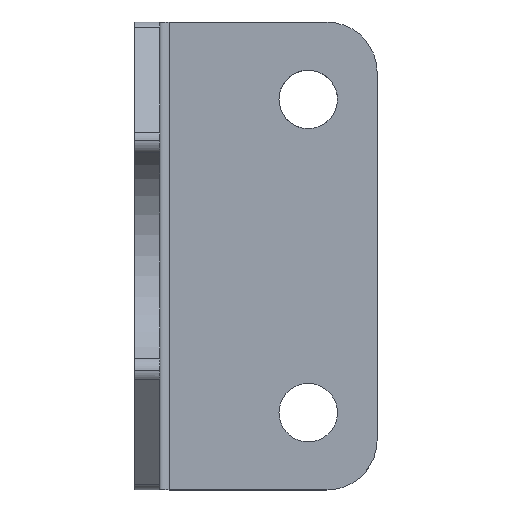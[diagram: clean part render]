
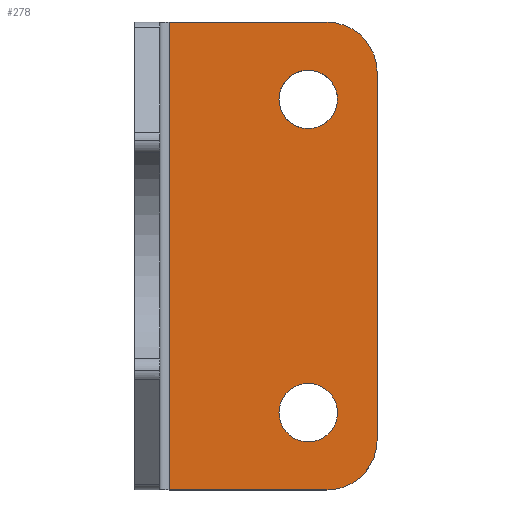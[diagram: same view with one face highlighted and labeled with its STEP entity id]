
A CAD part, top view. The second image highlights one B-rep face of the part: STEP entity #278.
In plain terms, the highlighted planar face has unit normal (0, 0, 1).
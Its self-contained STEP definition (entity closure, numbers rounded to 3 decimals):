
#62=CARTESIAN_POINT('Vertex',(41.5,-44.5,0.)) ;
#65=CARTESIAN_POINT('Axis2P3D Location',(41.5,-37.5,0.)) ;
#69=CARTESIAN_POINT('Vertex',(48.5,-37.5,0.)) ;
#102=CARTESIAN_POINT('Vertex',(34.5,-37.5,0.)) ;
#105=CARTESIAN_POINT('Axis2P3D Location',(41.5,-37.5,0.)) ;
#122=CARTESIAN_POINT('Axis2P3D Location',(41.5,-37.5,0.)) ;
#126=CARTESIAN_POINT('Vertex',(41.5,-30.5,0.)) ;
#153=CARTESIAN_POINT('Axis2P3D Location',(41.5,-37.5,0.)) ;
#165=CARTESIAN_POINT('Axis2P3D Location',(0.,0.,0.)) ;
#170=CARTESIAN_POINT('Line Origine',(8.25,0.,0.)) ;
#174=CARTESIAN_POINT('Vertex',(8.25,-56.,0.)) ;
#176=CARTESIAN_POINT('Vertex',(8.25,56.,0.)) ;
#179=CARTESIAN_POINT('Line Origine',(33.125,-56.,0.)) ;
#183=CARTESIAN_POINT('Vertex',(46.,-56.,0.)) ;
#187=CARTESIAN_POINT('Control Point',(46.,-56.,0.)) ;
#188=CARTESIAN_POINT('Control Point',(49.77,-56.,0.)) ;
#189=CARTESIAN_POINT('Control Point',(53.543,-54.524,0.)) ;
#190=CARTESIAN_POINT('Control Point',(56.524,-51.543,0.)) ;
#191=CARTESIAN_POINT('Control Point',(58.,-47.77,0.)) ;
#192=CARTESIAN_POINT('Control Point',(58.,-44.,0.)) ;
#193=CARTESIAN_POINT('Vertex',(58.,-44.,0.)) ;
#196=CARTESIAN_POINT('Line Origine',(58.,0.,0.)) ;
#200=CARTESIAN_POINT('Vertex',(58.,44.,0.)) ;
#204=CARTESIAN_POINT('Control Point',(58.,44.,0.)) ;
#205=CARTESIAN_POINT('Control Point',(58.,47.77,0.)) ;
#206=CARTESIAN_POINT('Control Point',(56.524,51.543,0.)) ;
#207=CARTESIAN_POINT('Control Point',(53.543,54.524,0.)) ;
#208=CARTESIAN_POINT('Control Point',(49.77,56.,0.)) ;
#209=CARTESIAN_POINT('Control Point',(46.,56.,0.)) ;
#210=CARTESIAN_POINT('Vertex',(46.,56.,0.)) ;
#213=CARTESIAN_POINT('Line Origine',(33.125,56.,0.)) ;
#233=CARTESIAN_POINT('Control Point',(41.5,30.5,0.)) ;
#234=CARTESIAN_POINT('Control Point',(43.699,30.5,0.)) ;
#235=CARTESIAN_POINT('Control Point',(45.9,31.361,0.)) ;
#236=CARTESIAN_POINT('Control Point',(47.639,33.1,0.)) ;
#237=CARTESIAN_POINT('Control Point',(48.5,35.301,0.)) ;
#238=CARTESIAN_POINT('Control Point',(48.5,37.5,0.)) ;
#239=CARTESIAN_POINT('Vertex',(41.5,30.5,0.)) ;
#241=CARTESIAN_POINT('Vertex',(48.5,37.5,0.)) ;
#245=CARTESIAN_POINT('Control Point',(34.5,37.5,0.)) ;
#246=CARTESIAN_POINT('Control Point',(34.5,35.301,0.)) ;
#247=CARTESIAN_POINT('Control Point',(35.361,33.1,0.)) ;
#248=CARTESIAN_POINT('Control Point',(37.1,31.361,0.)) ;
#249=CARTESIAN_POINT('Control Point',(39.301,30.5,0.)) ;
#250=CARTESIAN_POINT('Control Point',(41.5,30.5,0.)) ;
#251=CARTESIAN_POINT('Vertex',(34.5,37.5,0.)) ;
#255=CARTESIAN_POINT('Control Point',(41.5,44.5,0.)) ;
#256=CARTESIAN_POINT('Control Point',(39.301,44.5,0.)) ;
#257=CARTESIAN_POINT('Control Point',(37.1,43.639,0.)) ;
#258=CARTESIAN_POINT('Control Point',(35.361,41.9,0.)) ;
#259=CARTESIAN_POINT('Control Point',(34.5,39.699,0.)) ;
#260=CARTESIAN_POINT('Control Point',(34.5,37.5,0.)) ;
#261=CARTESIAN_POINT('Vertex',(41.5,44.5,0.)) ;
#265=CARTESIAN_POINT('Control Point',(48.5,37.5,0.)) ;
#266=CARTESIAN_POINT('Control Point',(48.5,39.699,0.)) ;
#267=CARTESIAN_POINT('Control Point',(47.639,41.9,0.)) ;
#268=CARTESIAN_POINT('Control Point',(45.9,43.639,0.)) ;
#269=CARTESIAN_POINT('Control Point',(43.699,44.5,0.)) ;
#270=CARTESIAN_POINT('Control Point',(41.5,44.5,0.)) ;
#66=DIRECTION('Axis2P3D Direction',(0.,0.,1.)) ;
#106=DIRECTION('Axis2P3D Direction',(0.,0.,1.)) ;
#123=DIRECTION('Axis2P3D Direction',(0.,0.,1.)) ;
#154=DIRECTION('Axis2P3D Direction',(0.,0.,1.)) ;
#166=DIRECTION('Axis2P3D Direction',(0.,0.,1.)) ;
#167=DIRECTION('Axis2P3D XDirection',(0.,-1.,0.)) ;
#171=DIRECTION('Vector Direction',(0.,-1.,0.)) ;
#180=DIRECTION('Vector Direction',(1.,0.,0.)) ;
#197=DIRECTION('Vector Direction',(0.,-1.,0.)) ;
#214=DIRECTION('Vector Direction',(1.,0.,0.)) ;
#67=AXIS2_PLACEMENT_3D('Circle Axis2P3D',#65,#66,$) ;
#107=AXIS2_PLACEMENT_3D('Circle Axis2P3D',#105,#106,$) ;
#124=AXIS2_PLACEMENT_3D('Circle Axis2P3D',#122,#123,$) ;
#155=AXIS2_PLACEMENT_3D('Circle Axis2P3D',#153,#154,$) ;
#168=AXIS2_PLACEMENT_3D('Plane Axis2P3D',#165,#166,#167) ;
#219=ORIENTED_EDGE('',*,*,#178,.F.) ;
#220=ORIENTED_EDGE('',*,*,#185,.F.) ;
#221=ORIENTED_EDGE('',*,*,#195,.T.) ;
#222=ORIENTED_EDGE('',*,*,#202,.T.) ;
#223=ORIENTED_EDGE('',*,*,#212,.T.) ;
#224=ORIENTED_EDGE('',*,*,#217,.T.) ;
#227=ORIENTED_EDGE('',*,*,#71,.F.) ;
#228=ORIENTED_EDGE('',*,*,#109,.F.) ;
#229=ORIENTED_EDGE('',*,*,#128,.F.) ;
#230=ORIENTED_EDGE('',*,*,#157,.F.) ;
#273=ORIENTED_EDGE('',*,*,#243,.F.) ;
#274=ORIENTED_EDGE('',*,*,#253,.F.) ;
#275=ORIENTED_EDGE('',*,*,#263,.F.) ;
#276=ORIENTED_EDGE('',*,*,#271,.F.) ;
#231=FACE_BOUND('',#226,.T.) ;
#277=FACE_BOUND('',#272,.T.) ;
#172=VECTOR('Line Direction',#171,1.) ;
#181=VECTOR('Line Direction',#180,1.) ;
#198=VECTOR('Line Direction',#197,1.) ;
#215=VECTOR('Line Direction',#214,1.) ;
#278=ADVANCED_FACE('PartBody',(#225,#231,#277),#169,.T.) ;
#186=B_SPLINE_CURVE_WITH_KNOTS('',5,(#187,#188,#189,#190,#191,#192),.UNSPECIFIED.,.F.,.U.,(6,6),(0.,18.85),.UNSPECIFIED.) ;
#203=B_SPLINE_CURVE_WITH_KNOTS('',5,(#204,#205,#206,#207,#208,#209),.UNSPECIFIED.,.F.,.U.,(6,6),(18.85,37.699),.UNSPECIFIED.) ;
#232=B_SPLINE_CURVE_WITH_KNOTS('',5,(#233,#234,#235,#236,#237,#238),.UNSPECIFIED.,.F.,.U.,(6,6),(43.982,54.978),.UNSPECIFIED.) ;
#244=B_SPLINE_CURVE_WITH_KNOTS('',5,(#245,#246,#247,#248,#249,#250),.UNSPECIFIED.,.F.,.U.,(6,6),(32.987,43.982),.UNSPECIFIED.) ;
#254=B_SPLINE_CURVE_WITH_KNOTS('',5,(#255,#256,#257,#258,#259,#260),.UNSPECIFIED.,.F.,.U.,(6,6),(21.991,32.987),.UNSPECIFIED.) ;
#264=B_SPLINE_CURVE_WITH_KNOTS('',5,(#265,#266,#267,#268,#269,#270),.UNSPECIFIED.,.F.,.U.,(6,6),(10.996,21.991),.UNSPECIFIED.) ;
#68=CIRCLE('generated circle',#67,7.) ;
#108=CIRCLE('generated circle',#107,7.) ;
#125=CIRCLE('generated circle',#124,7.) ;
#156=CIRCLE('generated circle',#155,7.) ;
#71=EDGE_CURVE('',#63,#70,#68,.T.) ;
#109=EDGE_CURVE('',#103,#63,#108,.T.) ;
#128=EDGE_CURVE('',#127,#103,#125,.T.) ;
#157=EDGE_CURVE('',#70,#127,#156,.T.) ;
#178=EDGE_CURVE('',#175,#177,#173,.F.) ;
#185=EDGE_CURVE('',#184,#175,#182,.F.) ;
#195=EDGE_CURVE('',#184,#194,#186,.T.) ;
#202=EDGE_CURVE('',#194,#201,#199,.F.) ;
#212=EDGE_CURVE('',#201,#211,#203,.T.) ;
#217=EDGE_CURVE('',#211,#177,#216,.F.) ;
#243=EDGE_CURVE('',#240,#242,#232,.T.) ;
#253=EDGE_CURVE('',#252,#240,#244,.T.) ;
#263=EDGE_CURVE('',#262,#252,#254,.T.) ;
#271=EDGE_CURVE('',#242,#262,#264,.T.) ;
#218=EDGE_LOOP('',(#219,#220,#221,#222,#223,#224)) ;
#226=EDGE_LOOP('',(#227,#228,#229,#230)) ;
#272=EDGE_LOOP('',(#273,#274,#275,#276)) ;
#225=FACE_OUTER_BOUND('',#218,.T.) ;
#173=LINE('Line',#170,#172) ;
#182=LINE('Line',#179,#181) ;
#199=LINE('Line',#196,#198) ;
#216=LINE('Line',#213,#215) ;
#169=PLANE('',#168) ;
#63=VERTEX_POINT('',#62) ;
#70=VERTEX_POINT('',#69) ;
#103=VERTEX_POINT('',#102) ;
#127=VERTEX_POINT('',#126) ;
#175=VERTEX_POINT('',#174) ;
#177=VERTEX_POINT('',#176) ;
#184=VERTEX_POINT('',#183) ;
#194=VERTEX_POINT('',#193) ;
#201=VERTEX_POINT('',#200) ;
#211=VERTEX_POINT('',#210) ;
#240=VERTEX_POINT('',#239) ;
#242=VERTEX_POINT('',#241) ;
#252=VERTEX_POINT('',#251) ;
#262=VERTEX_POINT('',#261) ;
